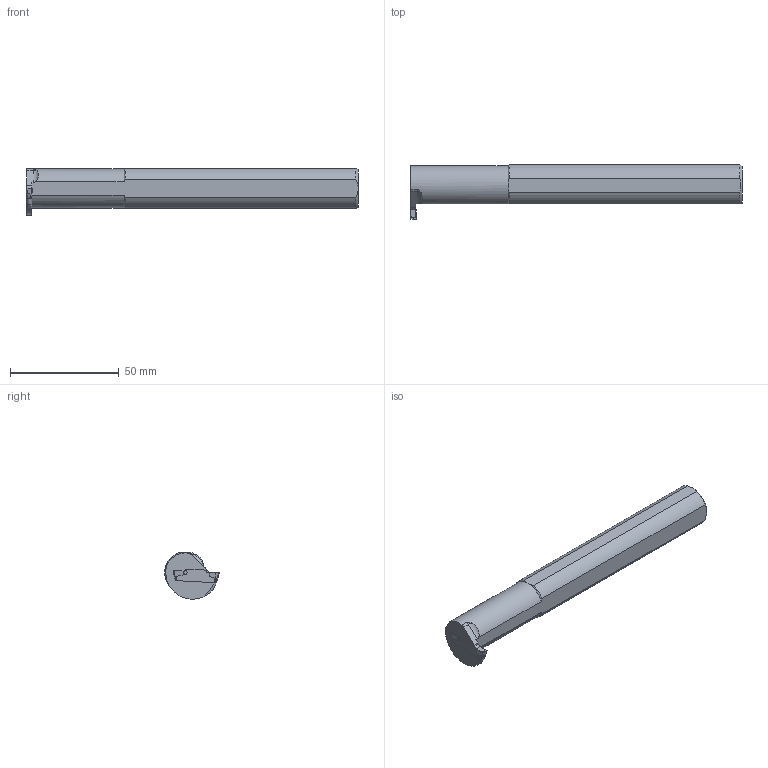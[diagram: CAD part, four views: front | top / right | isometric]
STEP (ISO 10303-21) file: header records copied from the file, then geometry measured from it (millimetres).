
FILE_DESCRIPTION(/* description */ (''),/* implementation_level */ '2;1');
FILE_NAME(/* name */ 'MGIVR16-12-3-HAAS_20200714.stp',/* time_stamp */ '2020-11-18T17:14:57+09:00',/* author */ (''),/* organization */ (''),/* preprocessor_version */ 'ST-DEVELOPER v11',/* originating_system */ 'SIEMENS UGS NX 6.0',/* authorisation */ '');
FILE_SCHEMA (('CONFIG_CONTROL_DESIGN'));
Length unit declared in the file: millimetre
Products named in the file (1): user6E78yshz
Bounding box: 152.4 x 25.09 x 21.22 mm (x, y, z)
Volume: 37628.2 mm3; surface area: 12325.9 mm2
Topology: 2 solids, 2 shells, 60 faces, 161 edges, 105 vertices
Faces by surface type: plane 31, cylinder 17, cone 6, extrusion 4, torus 2
Full cylindrical faces by diameter (mm): 1.6 x1, 6 x1
Entity records: 2017 total; most frequent: CARTESIAN_POINT 466, ORIENTED_EDGE 306, DIRECTION 295, EDGE_CURVE 153, VERTEX_POINT 103, AXIS2_PLACEMENT_3D 102, VECTOR 91, LINE 87
